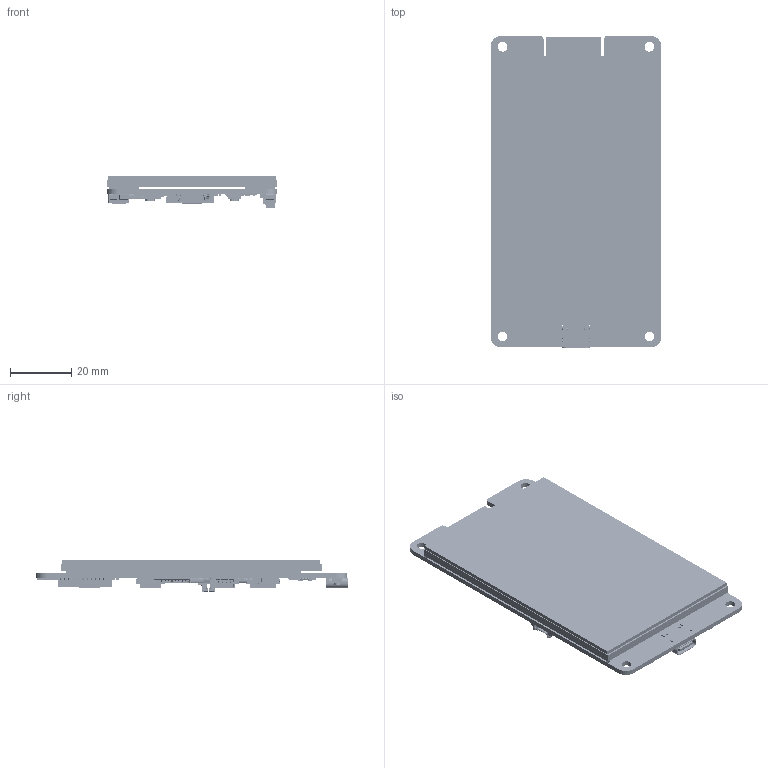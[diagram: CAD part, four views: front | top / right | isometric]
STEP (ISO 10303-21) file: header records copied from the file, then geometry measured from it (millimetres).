
FILE_DESCRIPTION(('Open CASCADE Model'),'2;1');
FILE_NAME('Open CASCADE Shape Model','2024-08-14T16:53:54',('Author'),( 'Open CASCADE'),'Open CASCADE STEP processor 6.8','Open CASCADE 6.8' ,'Unknown');
FILE_SCHEMA(('AUTOMOTIVE_DESIGN { 1 0 10303 214 1 1 1 1 }'));
Length unit declared in the file: millimetre
Products named in the file (316): PCB; Board; Open CASCADE STEP translator 6.8 1.1.1; Open CASCADE STEP translator 6.8 1.1.1.1; R23; 5985860352; C27; C_0603; LOGO?; C25; R34; R33; R32; 5985859872; R31; R30; 5985859632; R29; Q5; 5985859392; U2; ESP32-WROOM-32E_20210903; ESP32-WROOM-32E_20210903.STEP; PCB_ESP32-WROOM-32E_V1(2)^PCB_ESP32-WROOM-32E_V1.STEP; DesignRootModel^PCB_ESP32-WROOM-32E_V1(2)_PCB_ESP32-WROOM-32E_V1.STEP; Submodel-SLP48_5X5_part^DesignRootModel_PCB_ESP32-WROOM-32E_V1(2)_PCB_
ESP32-WROOM-32E_V1.STEP; ESP32_5x5_20210301.STEP^Submodel-SLP48_5X5_part_DesignRootModel_PCB_
ESP32-WROOM-32E_V1(2)_PCB_ESP32-WROOM-32E_V1.STEP; ESP32_5x5_20210301.STEP^ESP32_5x5_20210301.STEP_Submodel-SLP48_5X5_
part_DesignRootModel_PCB_ESP32-WROOM-32E_V1(2)_PCB_ESP32-WROOM-32E_
V1.STEP; Submodel-ANT_L_TYPEA_1501846164_part^DesignRootModel_PCB_
ESP32-WROOM-32E_V1(2)_PCB_ESP32-WROOM-32E_V1.STEP; trace_1^Submodel-ANT_L_TYPEA_1501846164_part_DesignRootModel_PCB_
ESP32-WROOM-32E_V1(2)_PCB_ESP32-WROOM-32E_V1.STEP; Submodel-SOD882_part^DesignRootModel_PCB_ESP32-WROOM-32E_V1(2)_PCB_
ESP32-WROOM-32E_V1.STEP; DFN1006.STEP^Submodel-SOD882_part_DesignRootModel_PCB_ESP32-WROOM-32E_
V1(2)_PCB_ESP32-WROOM-32E_V1.STEP; DFN1006.STEP^DFN1006.STEP_Submodel-SOD882_part_DesignRootModel_PCB_
ESP32-WROOM-32E_V1(2)_PCB_ESP32-WROOM-32E_V1.STEP; Submodel-R0201_part^DesignRootModel_PCB_ESP32-WROOM-32E_V1(2)_PCB_
ESP32-WROOM-32E_V1.STEP; R0201_20210301.STEP^Submodel-R0201_part_DesignRootModel_PCB_
ESP32-WROOM-32E_V1(2)_PCB_ESP32-WROOM-32E_V1.STEP; R0201_20210301.STEP^R0201_20210301.STEP_Submodel-R0201_part_
DesignRootModel_PCB_ESP32-WROOM-32E_V1(2)_PCB_ESP32-WROOM-32E_V1.STEP; Submodel-R0201_part^DesignRootModel_PCB_ESP32-WROOM-32E_V1(2)_PCB_
ESP32-WROOM-32E_V1-1.STEP; R0201_20210301.STEP^Submodel-R0201_part_DesignRootModel_PCB_
ESP32-WROOM-32E_V1(2)_PCB_ESP32-WROOM-32E_V1-1.STEP; Submodel-R0201_part^DesignRootModel_PCB_ESP32-WROOM-32E_V1(2)_PCB_
ESP32-WROOM-32E_V1-2.STEP; R0201_20210301.STEP^Submodel-R0201_part_DesignRootModel_PCB_
ESP32-WROOM-32E_V1(2)_PCB_ESP32-WROOM-32E_V1-2.STEP ...
Assembly tree (438 placements, depth 9):
  PCB
    Board
      Open CASCADE STEP translator 6.8 1.1.1
        Open CASCADE STEP translator 6.8 1.1.1.1
    R23
      5985860352
    C27
      C_0603
        LOGO?
        C_0603
    C25
      C_0603
        LOGO?
        C_0603
    R34
      5985860352
    R33
      5985860352
    R32
      5985859872
    R31
      5985859872
    R30
      5985859632
    R29
      5985859632
    Q5
      5985859392
    U2
      ESP32-WROOM-32E_20210903
        ESP32-WROOM-32E_20210903.STEP
          PCB_ESP32-WROOM-32E_V1(2)^PCB_ESP32-WROOM-32E_V1.STEP
            DesignRootModel^PCB_ESP32-WROOM-32E_V1(2)_PCB_ESP32-WROOM-32E_V1.STEP
              Submodel-SLP48_5X5_part^DesignRootModel_PCB_ESP32-WROOM-32E_V1(2)_PCB_
ESP32-WROOM-32E_V1.STEP
                ESP32_5x5_20210301.STEP^Submodel-SLP48_5X5_part_DesignRootModel_PCB_
ESP32-WROOM-32E_V1(2)_PCB_ESP32-WROOM-32E_V1.STEP
                  ESP32_5x5_20210301.STEP^ESP32_5x5_20210301.STEP_Submodel-SLP48_5X5_
part_DesignRootModel_PCB_ESP32-WROOM-32E_V1(2)_PCB_ESP32-WROOM-32E_
V1.STEP
              Submodel-ANT_L_TYPEA_1501846164_part^DesignRootModel_PCB_
ESP32-WROOM-32E_V1(2)_PCB_ESP32-WROOM-32E_V1.STEP
                trace_1^Submodel-ANT_L_TYPEA_1501846164_part_DesignRootModel_PCB_
ESP32-WROOM-32E_V1(2)_PCB_ESP32-WROOM-32E_V1.STEP
              Submodel-SOD882_part^DesignRootModel_PCB_ESP32-WROOM-32E_V1(2)_PCB_
ESP32-WROOM-32E_V1.STEP
                DFN1006.STEP^Submodel-SOD882_part_DesignRootModel_PCB_ESP32-WROOM-32E_
V1(2)_PCB_ESP32-WROOM-32E_V1.STEP
                  DFN1006.STEP^DFN1006.STEP_Submodel-SOD882_part_DesignRootModel_PCB_
ESP32-WROOM-32E_V1(2)_PCB_ESP32-WROOM-32E_V1.STEP
              Submodel-R0201_part^DesignRootModel_PCB_ESP32-WROOM-32E_V1(2)_PCB_
ESP32-WROOM-32E_V1.STEP
                R0201_20210301.STEP^Submodel-R0201_part_DesignRootModel_PCB_
ESP32-WROOM-32E_V1(2)_PCB_ESP32-WROOM-32E_V1.STEP
                  R0201_20210301.STEP^R0201_20210301.STEP_Submodel-R0201_part_
DesignRootModel_PCB_ESP32-WROOM-32E_V1(2)_PCB_ESP32-WROOM-32E_V1.STEP
              Submodel-R0201_part^DesignRootModel_PCB_ESP32-WROOM-32E_V1(2)_PCB_
ESP32-WROOM-32E_V1-1.STEP
                R0201_20210301.STEP^Submodel-R0201_part_DesignRootModel_PCB_
ESP32-WROOM-32E_V1(2)_PCB_ESP32-WROOM-32E_V1-1.STEP
                  R0201_20210301.STEP^R0201_20210301.STEP_Submodel-R0201_part_
DesignRootModel_PCB_ESP32-WROOM-32E_V1(2)_PCB_ESP32-WROOM-32E_V1.STEP
              Submodel-R0201_part^DesignRootModel_PCB_ESP32-WROOM-32E_V1(2)_PCB_
ESP32-WROOM-32E_V1-2.STEP
                R0201_20210301.STEP^Submodel-R0201_part_DesignRootModel_PCB_
ESP32-WROOM-32E_V1(2)_PCB_ESP32-WROOM-32E_V1-2.STEP
                  R0201_20210301.STEP^R0201_20210301.STEP_Submodel-R0201_part_
DesignRootModel_PCB_ESP32-WROOM-32E_V1(2)_PCB_ESP32-WROOM-32E_V1.STEP
              Submodel-L0201_part^DesignRootModel_PCB_ESP32-WROOM-32E_V1(2)_PCB_
ESP32-WROOM-32E_V1.STEP
                L0201_20210301.STEP^Submodel-L0201_part_DesignRootModel_PCB_
ESP32-WROOM-32E_V1(2)_PCB_ESP32-WROOM-32E_V1.STEP
                  L0201_20210301.STEP^L0201_20210301.STEP_Submodel-L0201_part_
DesignRootModel_PCB_ESP32-WROOM-32E_V1(2)_PCB_ESP32-WROOM-32E_V1.STEP
              Submodel-L0201_part^DesignRootModel_PCB_ESP32-WROOM-32E_V1(2)_PCB_
ESP32-WROOM-32E_V1-1.STEP
                L0201_20210301.STEP^Submodel-L0201_part_DesignRootModel_PCB_
ESP32-WROOM-32E_V1(2)_PCB_ESP32-WROOM-32E_V1-1.STEP
                  L0201_20210301.STEP^L0201_20210301.STEP_Submodel-L0201_part_
DesignRootModel_PCB_ESP32-WROOM-32E_V1(2)_PCB_ESP32-WROOM-32E_V1.STEP
              Submodel-C0201_part^DesignRootModel_PCB_ESP32-WROOM-32E_V1(2)_PCB_
ESP32-WROOM-32E_V1.STEP
                C0201_20210301.STEP^Submodel-C0201_part_DesignRootModel_PCB_
ESP32-WROOM-32E_V1(2)_PCB_ESP32-WROOM-32E_V1.STEP
                  C0201_20210301.STEP^C0201_20210301.STEP_Submodel-C0201_part_
DesignRootModel_PCB_ESP32-WROOM-32E_V1(2)_PCB_ESP32-WROOM-32E_V1.STEP
              Submodel-C0201_part^DesignRootModel_PCB_ESP32-WROOM-32E_V1(2)_PCB_
ESP32-WROOM-32E_V1-1.STEP
Bounding box: 55.7 x 101.97 x 10.5 mm (x, y, z)
Volume: 28087.2 mm3; surface area: 41608.6 mm2
Topology: 811 solids, 1728 shells, 17385 faces, 46032 edges, 31332 vertices
Faces by surface type: plane 10119, bspline 3918, cylinder 2954, sphere 380, torus 7, cone 7
Full cylindrical faces by diameter (mm): 1 x2, 1.2 x3, 3.2 x4
Entity records: 295116 total; most frequent: CARTESIAN_POINT 91420, ORIENTED_EDGE 34338, DIRECTION 32761, EDGE_CURVE 19721, LINE 14881, VECTOR 14881, VERTEX_POINT 14557, AXIS2_PLACEMENT_3D 8940
